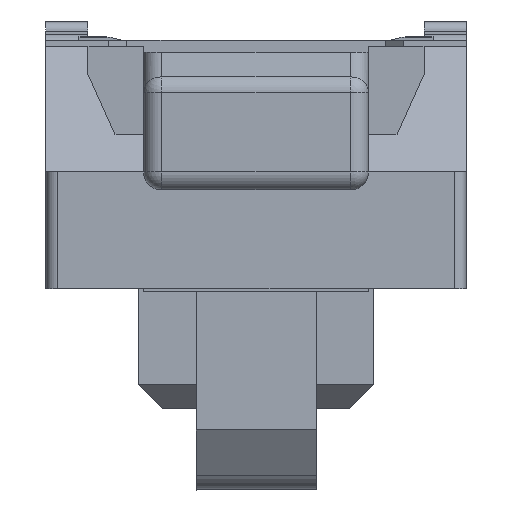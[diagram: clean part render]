
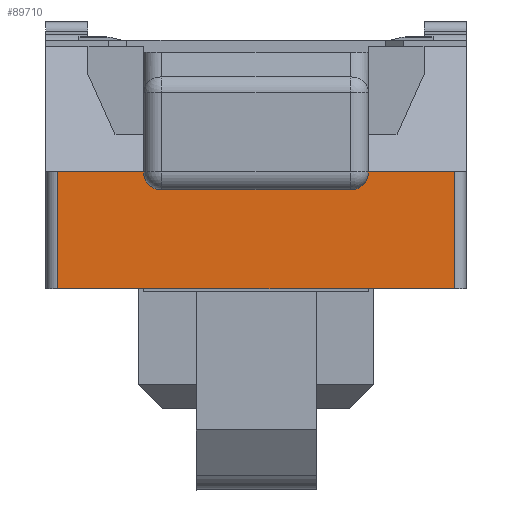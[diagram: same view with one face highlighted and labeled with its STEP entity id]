
A CAD part, left-side view. The second image highlights one B-rep face of the part: STEP entity #89710.
In plain terms, the highlighted planar face has unit normal (-1, 0, 0).
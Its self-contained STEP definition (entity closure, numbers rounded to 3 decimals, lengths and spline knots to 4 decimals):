
#88560=CARTESIAN_POINT('',(-20.8408,4.08,
-2.4));
#88570=VERTEX_POINT('',#88560);
#89280=CARTESIAN_POINT('',(-20.8408,-2.52,
-2.4));
#89290=VERTEX_POINT('',#89280);
#89320=CARTESIAN_POINT('',(-20.8408,-2.52,
-2.4));
#89330=DIRECTION('',(0.,1.,0.));
#89340=VECTOR('',#89330,1.);
#89350=LINE('',#89320,#89340);
#89360=EDGE_CURVE('',#89290,#88570,#89350,.T.);
#89410=CARTESIAN_POINT('',(-20.8408,4.28,
-4.35));
#89420=DIRECTION('',(-1.,0.,0.));
#89430=DIRECTION('',(0.,0.,-1.));
#89440=AXIS2_PLACEMENT_3D('',#89410,#89420,#89430);
#89450=PLANE('',#89440);
#89460=CARTESIAN_POINT('',(-20.8408,4.08,
-4.35));
#89470=DIRECTION('',(0.,0.,1.));
#89480=VECTOR('',#89470,1.);
#89490=LINE('',#89460,#89480);
#89500=CARTESIAN_POINT('',(-20.8408,4.08,
-4.35));
#89510=VERTEX_POINT('',#89500);
#89520=EDGE_CURVE('',#89510,#88570,#89490,.T.);
#89530=ORIENTED_EDGE('',*,*,#89520,.F.);
#89540=ORIENTED_EDGE('',*,*,#89360,.T.);
#89550=CARTESIAN_POINT('',(-20.8408,-2.52,
-2.4));
#89560=DIRECTION('',(0.,0.,-1.));
#89570=VECTOR('',#89560,1.);
#89580=LINE('',#89550,#89570);
#89590=CARTESIAN_POINT('',(-20.8408,-2.52,
-4.35));
#89600=VERTEX_POINT('',#89590);
#89610=EDGE_CURVE('',#89290,#89600,#89580,.T.);
#89620=ORIENTED_EDGE('',*,*,#89610,.F.);
#89630=CARTESIAN_POINT('',(-20.8408,-2.52,
-4.35));
#89640=DIRECTION('',(0.,1.,0.));
#89650=VECTOR('',#89640,1.);
#89660=LINE('',#89630,#89650);
#89670=EDGE_CURVE('',#89600,#89510,#89660,.T.);
#89680=ORIENTED_EDGE('',*,*,#89670,.F.);
#89690=EDGE_LOOP('',(#89680,#89620,#89540,#89530));
#89700=FACE_OUTER_BOUND('',#89690,.T.);
#89710=ADVANCED_FACE('',(#89700),#89450,.T.);
